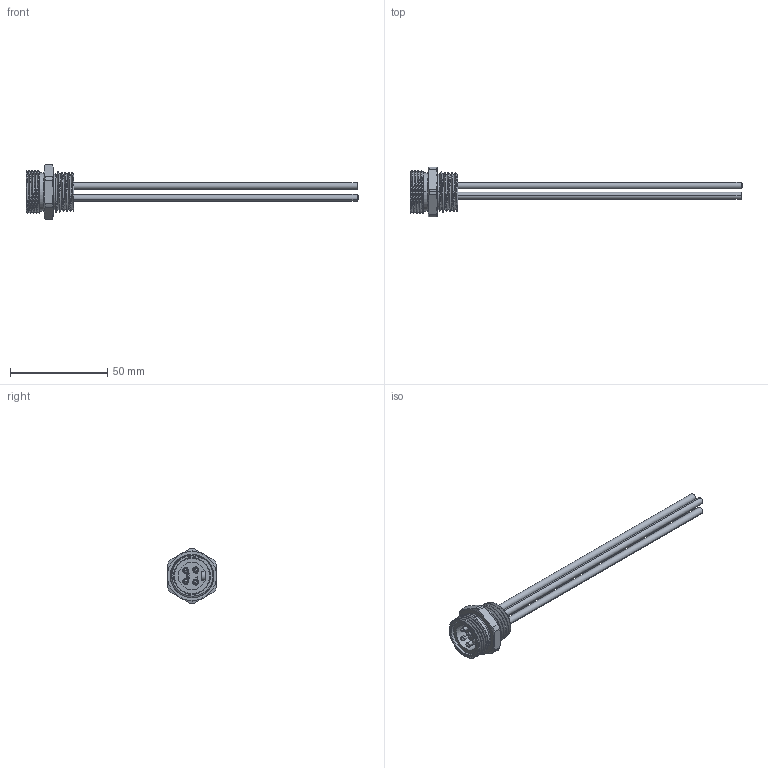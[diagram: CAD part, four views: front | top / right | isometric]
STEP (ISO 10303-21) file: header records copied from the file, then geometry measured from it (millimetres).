
FILE_DESCRIPTION (( 'STEP AP214' ), '1' );
FILE_NAME ('MINH-4MR-ZZ.STEP', '2008-11-03T20:56:32', ( ' ' ), ( '' ), 'SwSTEP 2.0', 'SolidWorks 2008', '' );
FILE_SCHEMA (( 'AUTOMOTIVE_DESIGN' ));
Length unit declared in the file: millimetre
Products named in the file (9): MIN-XMR; MINH-4MR-ZZ; MR-PIN-14; MIN-4MR-INSERT; UL1015-1441-0; UL1015-1441-54; UL1015-1441-9; epoxy; UL1015-1441-2
Assembly tree (11 placements, depth 2):
  MINH-4MR-ZZ
    MR-PIN-14  x4
    MIN-XMR
    MIN-4MR-INSERT
    UL1015-1441-54
    UL1015-1441-2
    UL1015-1441-9
    epoxy
    UL1015-1441-0
Bounding box: 170.51 x 25.4 x 27.94 mm (x, y, z)
Volume: 13138 mm3; surface area: 15282.9 mm2
Topology: 11 solids, 11 shells, 392 faces, 937 edges, 588 vertices
Faces by surface type: cylinder 134, plane 123, cone 75, bspline 48, sphere 8, torus 4
Entity records: 17452 total; most frequent: CARTESIAN_POINT 7461, ORIENTED_EDGE 1602, DIRECTION 1435, EDGE_CURVE 801, AXIS2_PLACEMENT_3D 528, VERTEX_POINT 516, VECTOR 379, LINE 379
